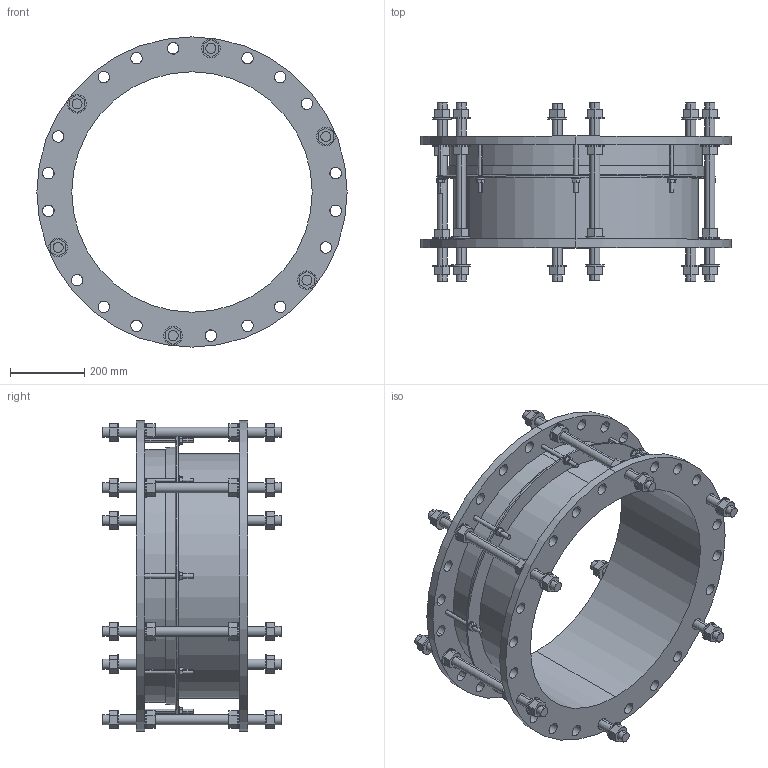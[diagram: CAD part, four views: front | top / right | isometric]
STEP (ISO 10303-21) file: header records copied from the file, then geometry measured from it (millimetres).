
FILE_DESCRIPTION((''),'2;1');
FILE_NAME('LO2_DJ_BIM_ASM','2020-11-04T',('mfairey'),('Glynwed Pipe Systems'),'CREO PARAMETRIC BY PTC INC, 2016130','CREO PARAMETRIC BY PTC INC, 2016130','');
FILE_SCHEMA(('CONFIG_CONTROL_DESIGN'));
Length unit declared in the file: millimetre
Products named in the file (3): DJ_AF0; TIE_BOLT_BIM; LO2_DJ_BIM_ASM
Assembly tree (7 placements, depth 2):
  LO2_DJ_BIM_ASM
    DJ_AF0
    TIE_BOLT_BIM  x6
Bounding box: 835 x 480 x 835 mm (x, y, z)
Volume: 17657752 mm3; surface area: 2692212.2 mm2
Topology: 7 solids, 7 shells, 592 faces, 1446 edges, 958 vertices
Faces by surface type: plane 314, cylinder 274, cone 4
Entity records: 10584 total; most frequent: CARTESIAN_POINT 2216, DIRECTION 1818, ORIENTED_EDGE 1632, EDGE_CURVE 816, AXIS2_PLACEMENT_3D 706, VERTEX_POINT 538, EDGE_LOOP 456, VECTOR 406
